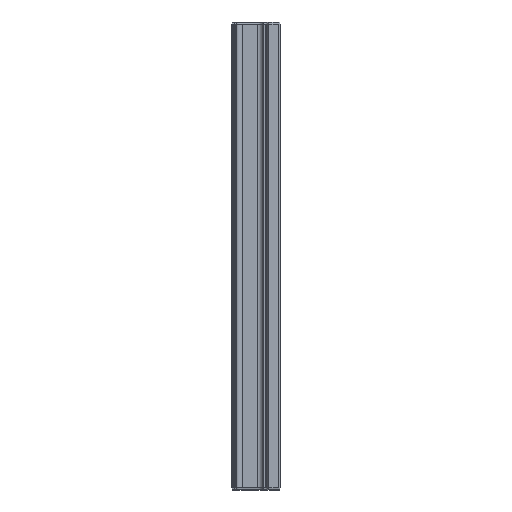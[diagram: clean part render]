
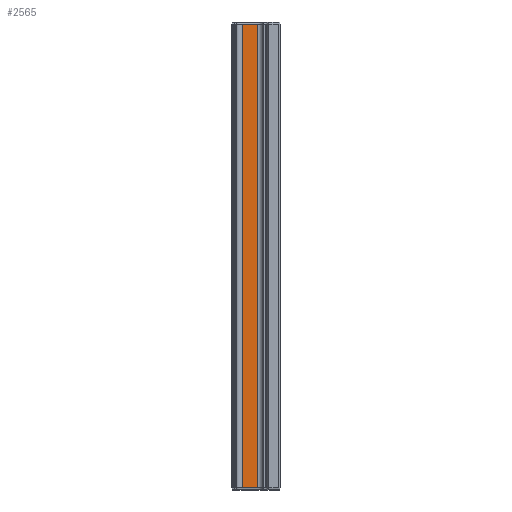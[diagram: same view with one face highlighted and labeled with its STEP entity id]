
A CAD part, left-side view. The second image highlights one B-rep face of the part: STEP entity #2565.
In plain terms, the highlighted planar face has unit normal (-1, 0, 0).
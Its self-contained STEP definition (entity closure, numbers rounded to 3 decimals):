
#520 = ORIENTED_EDGE ( 'NONE', *, *, #4560, .T. ) ;
#521 = ORIENTED_EDGE ( 'NONE', *, *, #4566, .T. ) ;
#528 = ORIENTED_EDGE ( 'NONE', *, *, #4562, .F. ) ;
#541 = ORIENTED_EDGE ( 'NONE', *, *, #4558, .T. ) ;
#1517 = FACE_OUTER_BOUND ( 'NONE', #2056, .T. ) ;
#2056 = EDGE_LOOP ( 'NONE', ( #521, #520, #528, #541 ) ) ;
#2565 = ADVANCED_FACE ( 'NONE', ( #1517 ), #8461, .F. ) ;
#2789 = AXIS2_PLACEMENT_3D ( 'NONE', #8460, #8464, #8466 ) ;
#3594 = CARTESIAN_POINT ( 'NONE',  ( -18.21, 35.932, 440. ) ) ;
#3597 = CARTESIAN_POINT ( 'NONE',  ( -18.21, 35.932, 438. ) ) ;
#3598 = DIRECTION ( 'NONE',  ( 0., 1., 0. ) ) ;
#3601 = DIRECTION ( 'NONE',  ( 0., 0., -1. ) ) ;
#3606 = DIRECTION ( 'NONE',  ( 0., -1., 0. ) ) ;
#3613 = CARTESIAN_POINT ( 'NONE',  ( -18.21, 21.068, 2. ) ) ;
#3625 = CARTESIAN_POINT ( 'NONE',  ( -18.21, 21.068, 440. ) ) ;
#3636 = DIRECTION ( 'NONE',  ( 0., 0., -1. ) ) ;
#3867 = CARTESIAN_POINT ( 'NONE',  ( -18.21, 21.068, 2. ) ) ;
#3986 = CARTESIAN_POINT ( 'NONE',  ( -18.21, 35.932, 2. ) ) ;
#4005 = CARTESIAN_POINT ( 'NONE',  ( -18.21, 35.932, 438. ) ) ;
#4211 = CARTESIAN_POINT ( 'NONE',  ( -18.21, 21.068, 438. ) ) ;
#4558 = EDGE_CURVE ( 'NONE', #7022, #7168, #7954, .T. ) ;
#4560 = EDGE_CURVE ( 'NONE', #7184, #7272, #7956, .T. ) ;
#4562 = EDGE_CURVE ( 'NONE', #7022, #7272, #7950, .T. ) ;
#4566 = EDGE_CURVE ( 'NONE', #7168, #7184, #7948, .T. ) ;
#7022 = VERTEX_POINT ( 'NONE', #4211 ) ;
#7168 = VERTEX_POINT ( 'NONE', #4005 ) ;
#7184 = VERTEX_POINT ( 'NONE', #3986 ) ;
#7272 = VERTEX_POINT ( 'NONE', #3867 ) ;
#7948 = LINE ( 'NONE', #3594, #7951 ) ;
#7949 = VECTOR ( 'NONE', #3636, 1000. ) ;
#7950 = LINE ( 'NONE', #3625, #7949 ) ;
#7951 = VECTOR ( 'NONE', #3601, 1000. ) ;
#7952 = VECTOR ( 'NONE', #3606, 1000. ) ;
#7953 = VECTOR ( 'NONE', #3598, 1000. ) ;
#7954 = LINE ( 'NONE', #3597, #7953 ) ;
#7956 = LINE ( 'NONE', #3613, #7952 ) ;
#8460 = CARTESIAN_POINT ( 'NONE',  ( -18.21, 35.932, 440. ) ) ;
#8461 = PLANE ( 'NONE',  #2789 ) ;
#8464 = DIRECTION ( 'NONE',  ( 1., 0., 0. ) ) ;
#8466 = DIRECTION ( 'NONE',  ( 0., 0., -1. ) ) ;
